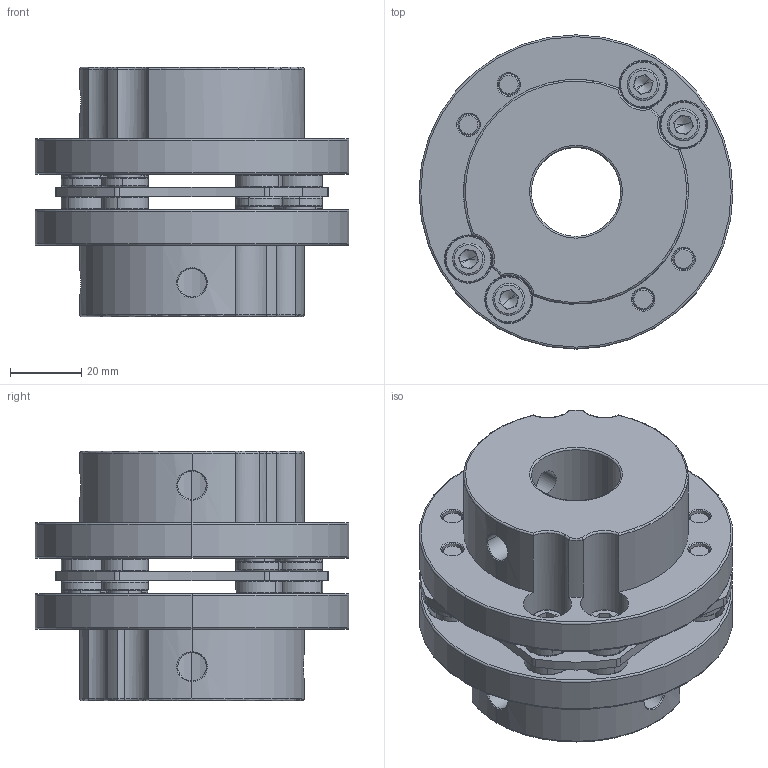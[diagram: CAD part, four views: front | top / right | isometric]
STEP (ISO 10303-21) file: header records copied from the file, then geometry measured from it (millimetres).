
FILE_DESCRIPTION (( 'STEP AP214' ), '1' );
FILE_NAME ('SHDS-88.STEP', '2009-05-21T09:17:24', ( '歜煽繹' ), ( '' ), 'SwSTEP 2.0', 'SolidWorks 2007', '' );
FILE_SCHEMA (( 'AUTOMOTIVE_DESIGN' ));
Length unit declared in the file: millimetre
Products named in the file (8): 憮蝶っ橫撬_ル遽; collar-1_ル遽; 橫撬綰葬1_ル遽; sdw-set_head-25_ル遽; sus-plate1_ル遽; SHDS-88; M6x18; collar-2_ル遽
Assembly tree (29 placements, depth 4):
  SHDS-88
    橫撬綰葬1_ル遽
      sdw-set_head-25_ル遽
      憮蝶っ橫撬_ル遽
        sus-plate1_ル遽
        collar-2_ル遽  x8
        collar-1_ル遽  x8
        M6x18  x8
    sdw-set_head-25_ル遽
Bounding box: 88 x 88 x 69.9 mm (x, y, z)
Volume: 216052.9 mm3; surface area: 65257.7 mm2
Topology: 27 solids, 27 shells, 673 faces, 1493 edges, 872 vertices
Faces by surface type: torus 208, cylinder 205, plane 168, cone 84, bspline 8
Entity records: 6114 total; most frequent: CARTESIAN_POINT 1401, DIRECTION 1066, ORIENTED_EDGE 850, AXIS2_PLACEMENT_3D 464, EDGE_CURVE 425, CIRCLE 259, VERTEX_POINT 258, EDGE_LOOP 217
